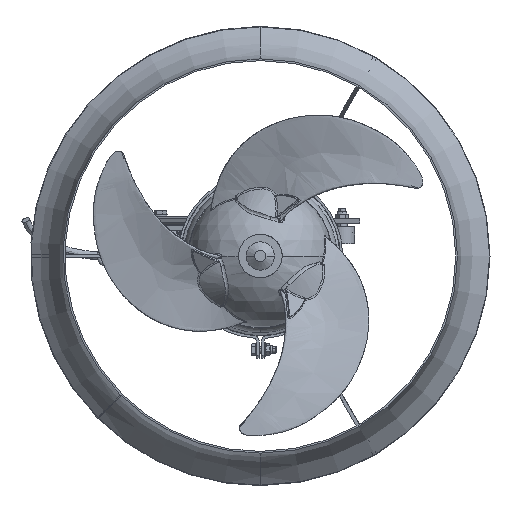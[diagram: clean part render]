
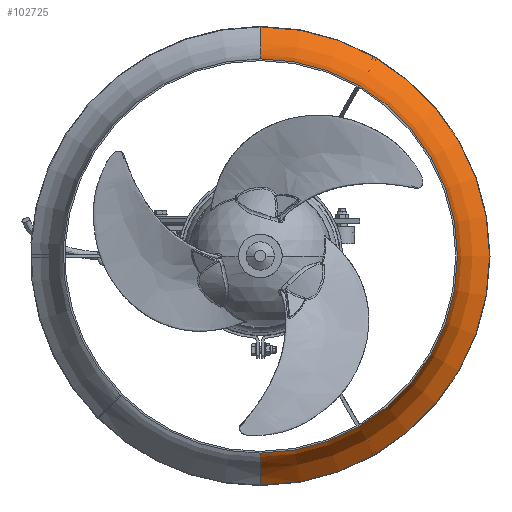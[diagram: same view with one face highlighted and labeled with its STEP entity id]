
A CAD part, left-side view. The second image highlights one B-rep face of the part: STEP entity #102725.
In plain terms, the highlighted toroidal (fillet/blend) face has major radius 473 mm and minor radius 125 mm.
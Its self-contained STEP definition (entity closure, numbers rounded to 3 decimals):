
#2889 = CARTESIAN_POINT ( 'NONE',  ( -503.511, 0., 0. ) ) ;
#5116 = TOROIDAL_SURFACE ( 'NONE', #71943, 473., 125. ) ;
#7365 = CIRCLE ( 'NONE', #104259, 125. ) ;
#8772 = ORIENTED_EDGE ( 'NONE', *, *, #19573, .T. ) ;
#13555 = CARTESIAN_POINT ( 'NONE',  ( -503.511, 0., 348. ) ) ;
#16983 = CIRCLE ( 'NONE', #92092, 125. ) ;
#19573 = EDGE_CURVE ( 'NONE', #130729, #65447, #16983, .T. ) ;
#21600 = CARTESIAN_POINT ( 'NONE',  ( -503.511, 0., 0. ) ) ;
#22376 = EDGE_CURVE ( 'NONE', #153359, #105298, #7365, .T. ) ;
#23918 = CIRCLE ( 'NONE', #43165, 405.5 ) ;
#23971 = DIRECTION ( 'NONE',  ( 0., -1., 0. ) ) ;
#26081 = EDGE_CURVE ( 'NONE', #65447, #105298, #23918, .T. ) ;
#29993 = CARTESIAN_POINT ( 'NONE',  ( -398.303, 0., 405.5 ) ) ;
#33650 = DIRECTION ( 'NONE',  ( 0., 0., 1. ) ) ;
#34736 = CARTESIAN_POINT ( 'NONE',  ( -398.303, 0., 0. ) ) ;
#35807 = CARTESIAN_POINT ( 'NONE',  ( -398.303, 0., -405.5 ) ) ;
#43165 = AXIS2_PLACEMENT_3D ( 'NONE', #34736, #118618, #46832 ) ;
#46832 = DIRECTION ( 'NONE',  ( 0., 0., 1. ) ) ;
#53053 = DIRECTION ( 'NONE',  ( 0., 1., 0. ) ) ;
#65447 = VERTEX_POINT ( 'NONE', #35807 ) ;
#71943 = AXIS2_PLACEMENT_3D ( 'NONE', #2889, #110826, #146971 ) ;
#73962 = CIRCLE ( 'NONE', #77318, 348. ) ;
#77318 = AXIS2_PLACEMENT_3D ( 'NONE', #21600, #105437, #33650 ) ;
#83724 = ORIENTED_EDGE ( 'NONE', *, *, #147757, .F. ) ;
#92092 = AXIS2_PLACEMENT_3D ( 'NONE', #124865, #53053, #136899 ) ;
#95774 = CARTESIAN_POINT ( 'NONE',  ( -503.511, 0., 473. ) ) ;
#100640 = ORIENTED_EDGE ( 'NONE', *, *, #22376, .F. ) ;
#102725 = ADVANCED_FACE ( 'NONE', ( #128869 ), #5116, .F. ) ;
#104259 = AXIS2_PLACEMENT_3D ( 'NONE', #95774, #23971, #107828 ) ;
#105298 = VERTEX_POINT ( 'NONE', #29993 ) ;
#105437 = DIRECTION ( 'NONE',  ( -1., 0., 0. ) ) ;
#107828 = DIRECTION ( 'NONE',  ( 0., 0., -1. ) ) ;
#109568 = CARTESIAN_POINT ( 'NONE',  ( -503.511, 0., -348. ) ) ;
#110826 = DIRECTION ( 'NONE',  ( -1., 0., 0. ) ) ;
#118589 = EDGE_LOOP ( 'NONE', ( #83724, #8772, #147404, #100640 ) ) ;
#118618 = DIRECTION ( 'NONE',  ( -1., 0., 0. ) ) ;
#124865 = CARTESIAN_POINT ( 'NONE',  ( -503.511, 0., -473. ) ) ;
#128869 = FACE_OUTER_BOUND ( 'NONE', #118589, .T. ) ;
#130729 = VERTEX_POINT ( 'NONE', #109568 ) ;
#136899 = DIRECTION ( 'NONE',  ( 0., 0., 1. ) ) ;
#146971 = DIRECTION ( 'NONE',  ( 0., 0., 1. ) ) ;
#147404 = ORIENTED_EDGE ( 'NONE', *, *, #26081, .T. ) ;
#147757 = EDGE_CURVE ( 'NONE', #130729, #153359, #73962, .T. ) ;
#153359 = VERTEX_POINT ( 'NONE', #13555 ) ;
